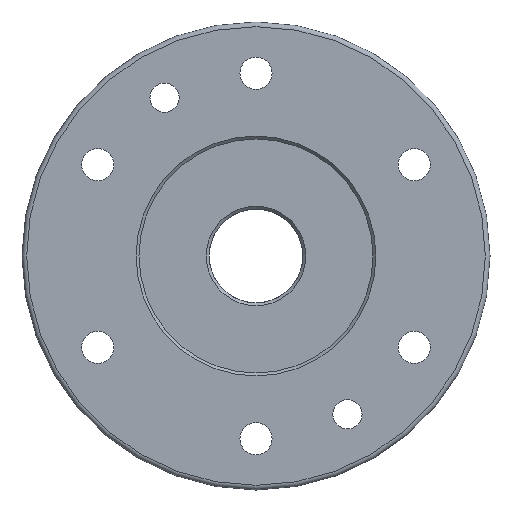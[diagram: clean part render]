
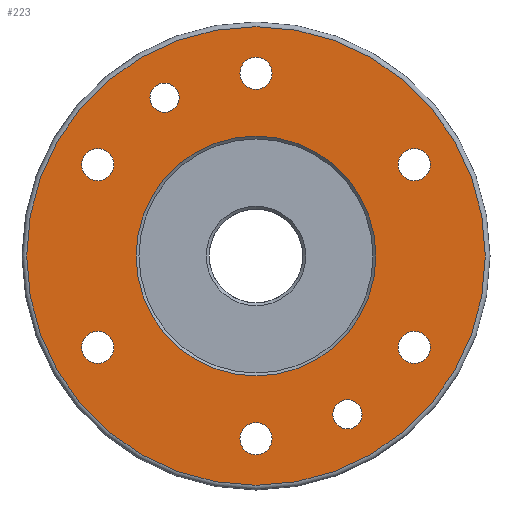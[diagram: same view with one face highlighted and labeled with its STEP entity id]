
A CAD part, left-side view. The second image highlights one B-rep face of the part: STEP entity #223.
In plain terms, the highlighted planar face has unit normal (-1, 0, 0).
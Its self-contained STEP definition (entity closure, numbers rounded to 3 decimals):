
#73=CARTESIAN_POINT('',(0.,78.4,0.0));
#74=VERTEX_POINT('',#73);
#75=CARTESIAN_POINT('',(0.,0.0,0.0));
#76=DIRECTION('',(1.0,0.0,0.0));
#77=DIRECTION('',(0.0,-1.0,0.0));
#78=AXIS2_PLACEMENT_3D('',#75,#76,#77);
#79=CIRCLE('',#78,78.4);
#80=EDGE_CURVE('',#74,#74,#79,.T.);
#116=CARTESIAN_POINT('',(0.,60.0,0.0));
#117=DIRECTION('',(-1.0,0.0,0.0));
#118=DIRECTION('',(0.0,0.0,1.0));
#119=AXIS2_PLACEMENT_3D('',#116,#117,#118);
#120=PLANE('',#119);
#121=ORIENTED_EDGE('',*,*,#80,.F.);
#122=EDGE_LOOP('',(#121));
#123=FACE_OUTER_BOUND('',#122,.T.);
#124=CARTESIAN_POINT('',(0.,41.0,0.));
#125=VERTEX_POINT('',#124);
#126=CARTESIAN_POINT('',(0.,0.0,0.0));
#127=DIRECTION('',(-1.0,0.0,0.0));
#128=DIRECTION('',(0.0,-1.0,0.0));
#129=AXIS2_PLACEMENT_3D('',#126,#127,#128);
#130=CIRCLE('',#129,41.0);
#131=EDGE_CURVE('',#125,#125,#130,.T.);
#132=ORIENTED_EDGE('',*,*,#131,.F.);
#133=EDGE_LOOP('',(#132));
#134=FACE_BOUND('',#133,.T.);
#135=CARTESIAN_POINT('',(0.0,54.127,36.75));
#136=VERTEX_POINT('',#135);
#137=CARTESIAN_POINT('',(0.0,54.127,31.25));
#138=DIRECTION('',(1.0,0.0,0.0));
#139=DIRECTION('',(0.0,0.0,-1.0));
#140=AXIS2_PLACEMENT_3D('',#137,#138,#139);
#141=CIRCLE('',#140,5.5);
#142=EDGE_CURVE('',#136,#136,#141,.T.);
#143=ORIENTED_EDGE('',*,*,#142,.T.);
#144=EDGE_LOOP('',(#143));
#145=FACE_BOUND('',#144,.T.);
#146=CARTESIAN_POINT('',(0.0,0.,-57.0));
#147=VERTEX_POINT('',#146);
#148=CARTESIAN_POINT('',(0.0,0.,-62.5));
#149=DIRECTION('',(1.0,0.0,0.0));
#150=DIRECTION('',(0.0,0.0,-1.0));
#151=AXIS2_PLACEMENT_3D('',#148,#149,#150);
#152=CIRCLE('',#151,5.5);
#153=EDGE_CURVE('',#147,#147,#152,.T.);
#154=ORIENTED_EDGE('',*,*,#153,.T.);
#155=EDGE_LOOP('',(#154));
#156=FACE_BOUND('',#155,.T.);
#157=CARTESIAN_POINT('',(0.0,-54.127,36.75));
#158=VERTEX_POINT('',#157);
#159=CARTESIAN_POINT('',(0.0,-54.127,31.25));
#160=DIRECTION('',(1.0,0.0,0.0));
#161=DIRECTION('',(0.0,0.0,-1.0));
#162=AXIS2_PLACEMENT_3D('',#159,#160,#161);
#163=CIRCLE('',#162,5.5);
#164=EDGE_CURVE('',#158,#158,#163,.T.);
#165=ORIENTED_EDGE('',*,*,#164,.T.);
#166=EDGE_LOOP('',(#165));
#167=FACE_BOUND('',#166,.T.);
#168=CARTESIAN_POINT('',(0.0,0.,68.0));
#169=VERTEX_POINT('',#168);
#170=CARTESIAN_POINT('',(0.0,0.0,62.5));
#171=DIRECTION('',(1.0,0.0,0.0));
#172=DIRECTION('',(0.0,0.0,-1.0));
#173=AXIS2_PLACEMENT_3D('',#170,#171,#172);
#174=CIRCLE('',#173,5.5);
#175=EDGE_CURVE('',#169,#169,#174,.T.);
#176=ORIENTED_EDGE('',*,*,#175,.T.);
#177=EDGE_LOOP('',(#176));
#178=FACE_BOUND('',#177,.T.);
#179=CARTESIAN_POINT('',(0.0,-54.127,-25.75));
#180=VERTEX_POINT('',#179);
#181=CARTESIAN_POINT('',(0.0,-54.127,-31.25));
#182=DIRECTION('',(1.0,0.0,0.0));
#183=DIRECTION('',(0.0,0.0,-1.0));
#184=AXIS2_PLACEMENT_3D('',#181,#182,#183);
#185=CIRCLE('',#184,5.5);
#186=EDGE_CURVE('',#180,#180,#185,.T.);
#187=ORIENTED_EDGE('',*,*,#186,.T.);
#188=EDGE_LOOP('',(#187));
#189=FACE_BOUND('',#188,.T.);
#190=CARTESIAN_POINT('',(0.0,54.127,-25.75));
#191=VERTEX_POINT('',#190);
#192=CARTESIAN_POINT('',(0.0,54.127,-31.25));
#193=DIRECTION('',(1.0,0.0,0.0));
#194=DIRECTION('',(0.0,0.0,-1.0));
#195=AXIS2_PLACEMENT_3D('',#192,#193,#194);
#196=CIRCLE('',#195,5.5);
#197=EDGE_CURVE('',#191,#191,#196,.T.);
#198=ORIENTED_EDGE('',*,*,#197,.T.);
#199=EDGE_LOOP('',(#198));
#200=FACE_BOUND('',#199,.T.);
#201=CARTESIAN_POINT('',(0.0,-31.25,-59.127));
#202=VERTEX_POINT('',#201);
#203=CARTESIAN_POINT('',(0.0,-31.25,-54.127));
#204=DIRECTION('',(1.0,0.0,0.0));
#205=DIRECTION('',(0.0,0.0,1.0));
#206=AXIS2_PLACEMENT_3D('',#203,#204,#205);
#207=CIRCLE('',#206,5.0);
#208=EDGE_CURVE('',#202,#202,#207,.T.);
#209=ORIENTED_EDGE('',*,*,#208,.T.);
#210=EDGE_LOOP('',(#209));
#211=FACE_BOUND('',#210,.T.);
#212=CARTESIAN_POINT('',(0.0,31.25,49.127));
#213=VERTEX_POINT('',#212);
#214=CARTESIAN_POINT('',(0.0,31.25,54.127));
#215=DIRECTION('',(1.0,0.0,0.0));
#216=DIRECTION('',(0.0,0.0,1.0));
#217=AXIS2_PLACEMENT_3D('',#214,#215,#216);
#218=CIRCLE('',#217,5.0);
#219=EDGE_CURVE('',#213,#213,#218,.T.);
#220=ORIENTED_EDGE('',*,*,#219,.T.);
#221=EDGE_LOOP('',(#220));
#222=FACE_BOUND('',#221,.T.);
#223=ADVANCED_FACE('',(#123,#134,#145,#156,#167,#178,#189,#200,#211,#222),#120,.T.);
